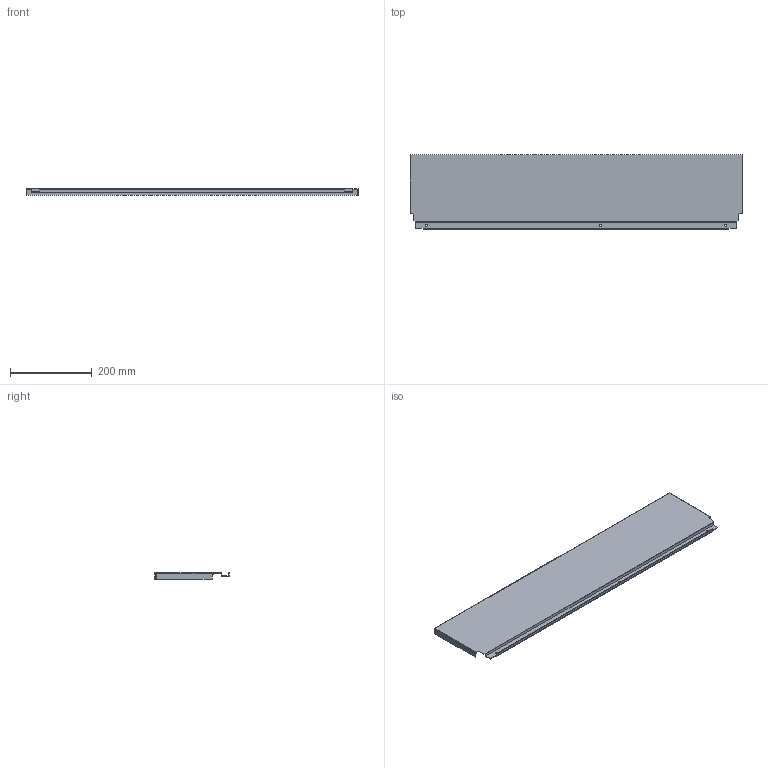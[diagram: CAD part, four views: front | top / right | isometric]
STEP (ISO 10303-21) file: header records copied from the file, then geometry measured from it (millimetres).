
FILE_DESCRIPTION (( 'STEP AP214' ), '1' );
FILE_NAME ('_DWD_XP Stahlrückwand_H182_KAB900_S18.step', '2010-07-08T12:57:59', ( 'grass' ), ( '' ), 'SwSTEP 2.0', 'SolidWorks 2010', '' );
FILE_SCHEMA (( 'AUTOMOTIVE_DESIGN' ));
Length unit declared in the file: millimetre
Products named in the file (1): _DWD_XP Stahlrückwand_H182_KAB900_S18
Bounding box: 813 x 182.49 x 16 mm (x, y, z)
Volume: 152532 mm3; surface area: 352736.5 mm2
Topology: 1 solids, 1 shells, 46 faces, 132 edges, 88 vertices
Faces by surface type: plane 40, cylinder 6
Entity records: 1534 total; most frequent: CARTESIAN_POINT 267, ORIENTED_EDGE 264, DIRECTION 238, EDGE_CURVE 132, LINE 120, VECTOR 120, VERTEX_POINT 88, AXIS2_PLACEMENT_3D 59
